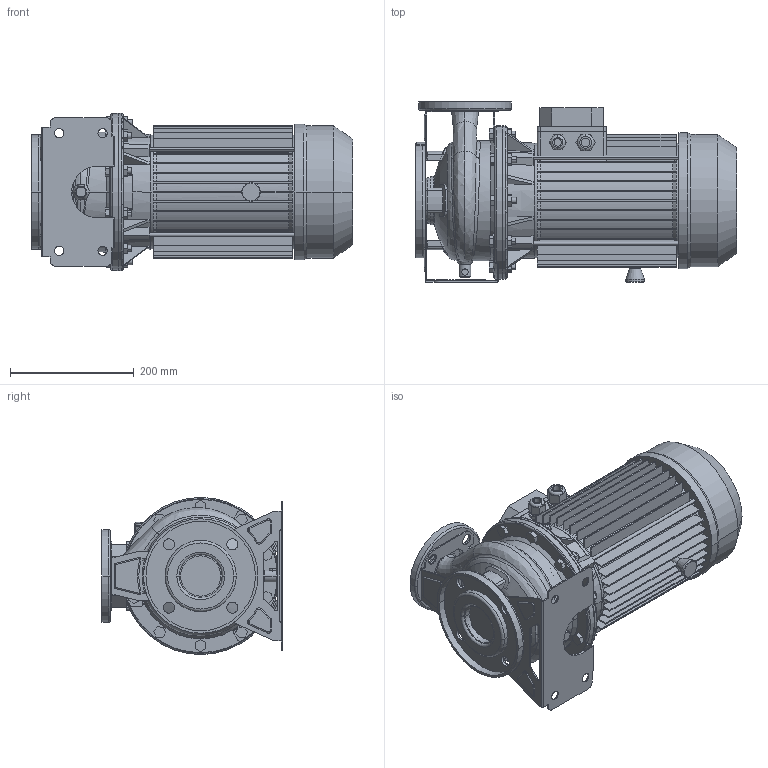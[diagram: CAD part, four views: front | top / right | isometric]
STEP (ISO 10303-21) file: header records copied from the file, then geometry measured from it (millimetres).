
FILE_DESCRIPTION((''),'2;1');
FILE_NAME('3M_40-160_5_56_E_ASM','2011-07-06T',('Utente'),('"Ebara Pumps Europe +39.444.706811"'),'PRO/ENGINEER BY PARAMETRIC TECHNOLOGY CORPORATION, 2009360','PRO/ENGINEER BY PARAMETRIC TECHNOLOGY CORPORATION, 2009360','');
FILE_SCHEMA(('AUTOMOTIVE_DESIGN { 1 0 10303 214 1 1 1 1 }'));
Length unit declared in the file: millimetre
Products named in the file (11): MEC_112X160_180_IE2; SUPPORTO_3M_190_112; CORPO_40-160; ASP_40-160; FLANGIA_DIN_65; MAND_40-160; FLANGIA_DIN_40; BASE_3M_40-160; CORPO_SALDATO_40-160_ASM; 72027; 3M_40-160_5_56_E_ASM
Assembly tree (10 placements, depth 3):
  3M_40-160_5_56_E_ASM
    MEC_112X160_180_IE2
    SUPPORTO_3M_190_112
    CORPO_SALDATO_40-160_ASM
      CORPO_40-160
      ASP_40-160
      FLANGIA_DIN_65
      MAND_40-160
      FLANGIA_DIN_40
      BASE_3M_40-160
    72027
Bounding box: 519 x 292 x 254 mm (x, y, z)
Volume: 10155876 mm3; surface area: 1369983.7 mm2
Topology: 12 solids, 12 shells, 1097 faces, 2778 edges, 1765 vertices
Faces by surface type: plane 597, cylinder 300, cone 98, torus 62, bspline 34, sphere 6
Entity records: 47600 total; most frequent: CARTESIAN_POINT 9307, DIRECTION 5706, ORIENTED_EDGE 5556, EDGE_CURVE 2778, PRESENTATION_STYLE_ASSIGNMENT 2775, STYLED_ITEM 2775, CURVE_STYLE 2764, AXIS2_PLACEMENT_3D 2085
